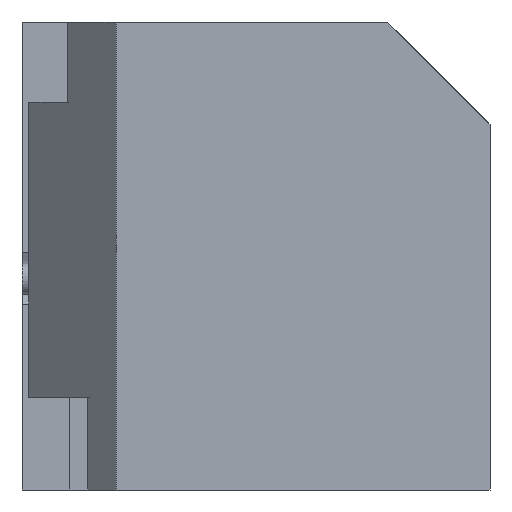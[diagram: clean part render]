
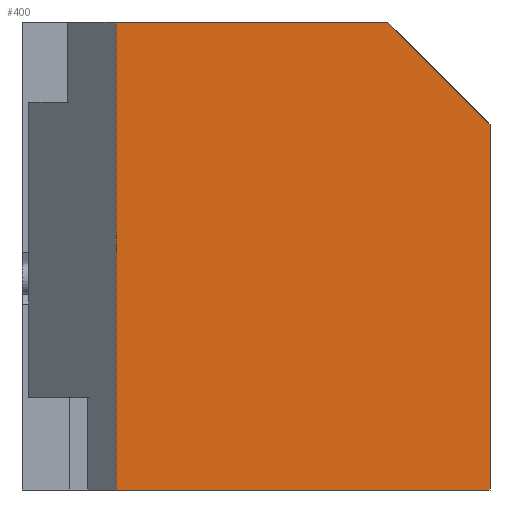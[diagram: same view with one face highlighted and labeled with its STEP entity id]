
A CAD part, left-side view. The second image highlights one B-rep face of the part: STEP entity #400.
In plain terms, the highlighted planar face has unit normal (-1, 0, 0).
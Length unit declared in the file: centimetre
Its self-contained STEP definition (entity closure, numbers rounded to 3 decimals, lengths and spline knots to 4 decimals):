
#1 = CARTESIAN_POINT ( 'NONE',  ( 0., 218.0119, 1000. ) ) ;
#4 = VERTEX_POINT ( 'NONE', #454 ) ;
#7 = CARTESIAN_POINT ( 'NONE',  ( 0., 798.6964, 1000. ) ) ;
#34 = DIRECTION ( 'NONE',  ( 0., 0., -1. ) ) ;
#59 = PLANE ( 'NONE',  #491 ) ;
#142 = EDGE_LOOP ( 'NONE', ( #1225, #1122, #778, #833, #711 ) ) ;
#270 = CARTESIAN_POINT ( 'NONE',  ( 0., 798.6964, 1000. ) ) ;
#288 = DIRECTION ( 'NONE',  ( 0., -1., 0. ) ) ;
#306 = LINE ( 'NONE', #730, #1335 ) ;
#329 = VERTEX_POINT ( 'NONE', #270 ) ;
#333 = VECTOR ( 'NONE', #864, 100. ) ;
#375 = LINE ( 'NONE', #7, #1387 ) ;
#400 = ADVANCED_FACE ( 'NONE', ( #926 ), #59, .F. ) ;
#454 = CARTESIAN_POINT ( 'NONE',  ( 0., 798.6964, 0. ) ) ;
#484 = VERTEX_POINT ( 'NONE', #1042 ) ;
#485 = EDGE_CURVE ( 'NONE', #329, #484, #1246, .T. ) ;
#491 = AXIS2_PLACEMENT_3D ( 'NONE', #834, #931, #632 ) ;
#507 = CARTESIAN_POINT ( 'NONE',  ( 0., 0., 0. ) ) ;
#602 = CARTESIAN_POINT ( 'NONE',  ( 0., 0., 781.9881 ) ) ;
#632 = DIRECTION ( 'NONE',  ( 0., 0., -1. ) ) ;
#684 = EDGE_CURVE ( 'NONE', #329, #4, #375, .T. ) ;
#697 = EDGE_CURVE ( 'NONE', #4, #1352, #894, .T. ) ;
#711 = ORIENTED_EDGE ( 'NONE', *, *, #1395, .T. ) ;
#730 = CARTESIAN_POINT ( 'NONE',  ( 0., 0., 1000. ) ) ;
#738 = DIRECTION ( 'NONE',  ( 0., 0., -1. ) ) ;
#778 = ORIENTED_EDGE ( 'NONE', *, *, #697, .T. ) ;
#779 = VECTOR ( 'NONE', #792, 100. ) ;
#792 = DIRECTION ( 'NONE',  ( 0., -1., 0. ) ) ;
#833 = ORIENTED_EDGE ( 'NONE', *, *, #1084, .F. ) ;
#834 = CARTESIAN_POINT ( 'NONE',  ( 0., 1000., 1000. ) ) ;
#864 = DIRECTION ( 'NONE',  ( 0., 0.707, 0.707 ) ) ;
#882 = LINE ( 'NONE', #1, #333 ) ;
#894 = LINE ( 'NONE', #1109, #779 ) ;
#896 = VERTEX_POINT ( 'NONE', #602 ) ;
#926 = FACE_OUTER_BOUND ( 'NONE', #142, .T. ) ;
#931 = DIRECTION ( 'NONE',  ( 1., 0., 0. ) ) ;
#1042 = CARTESIAN_POINT ( 'NONE',  ( 0., 218.0119, 1000. ) ) ;
#1084 = EDGE_CURVE ( 'NONE', #896, #1352, #306, .T. ) ;
#1109 = CARTESIAN_POINT ( 'NONE',  ( 0., 1000., 0. ) ) ;
#1122 = ORIENTED_EDGE ( 'NONE', *, *, #684, .T. ) ;
#1161 = CARTESIAN_POINT ( 'NONE',  ( 0., 1000., 1000. ) ) ;
#1225 = ORIENTED_EDGE ( 'NONE', *, *, #485, .F. ) ;
#1246 = LINE ( 'NONE', #1161, #1287 ) ;
#1287 = VECTOR ( 'NONE', #288, 100. ) ;
#1335 = VECTOR ( 'NONE', #738, 100. ) ;
#1352 = VERTEX_POINT ( 'NONE', #507 ) ;
#1387 = VECTOR ( 'NONE', #34, 100. ) ;
#1395 = EDGE_CURVE ( 'NONE', #896, #484, #882, .T. ) ;
